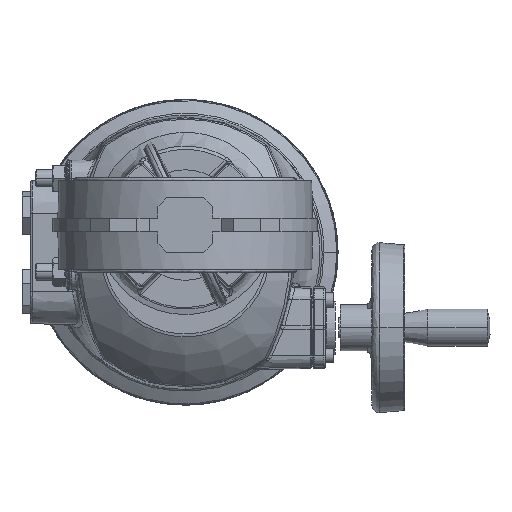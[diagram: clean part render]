
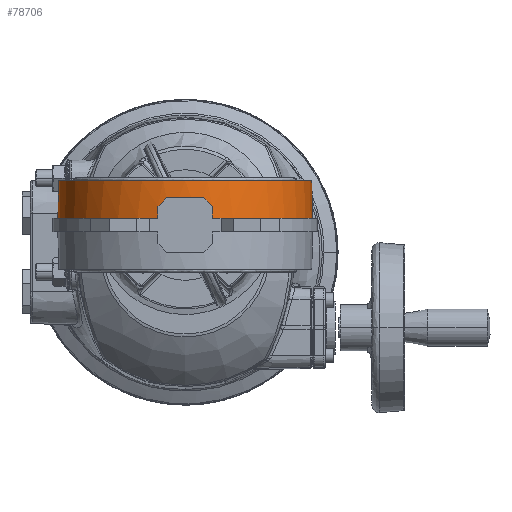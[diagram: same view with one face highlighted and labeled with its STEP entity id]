
A CAD part, front view. The second image highlights one B-rep face of the part: STEP entity #78706.
In plain terms, the highlighted conical face has half-angle 1 degrees and reference radius 74.884 mm.
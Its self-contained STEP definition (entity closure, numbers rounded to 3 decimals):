
#3187 = ORIENTED_EDGE ( 'NONE', *, *, #31647, .T. ) ;
#8402 = EDGE_CURVE ( 'NONE', #90269, #90282, #33159, .T. ) ;
#8737 = AXIS2_PLACEMENT_3D ( 'NONE', #94306, #28377, #21492 ) ;
#9032 = CARTESIAN_POINT ( 'NONE',  ( -12.676, -73.64, 14.324 ) ) ;
#9079 = EDGE_CURVE ( 'NONE', #61916, #35025, #98708, .T. ) ;
#10320 = B_SPLINE_CURVE_WITH_KNOTS ( 'NONE', 3,
 ( #75633, #66690, #19207, #74577 ),
 .UNSPECIFIED., .F., .F.,
 ( 4, 4 ),
 ( 0., 0.007 ),
 .UNSPECIFIED. ) ;
#12321 = DIRECTION ( 'NONE',  ( 0., 0., 1. ) ) ;
#15179 = CARTESIAN_POINT ( 'NONE',  ( 16., -73.113, 6.333 ) ) ;
#19207 = CARTESIAN_POINT ( 'NONE',  ( -16., -73.071, 8.667 ) ) ;
#19409 = AXIS2_PLACEMENT_3D ( 'NONE', #69125, #53338, #62283 ) ;
#20102 = VERTEX_POINT ( 'NONE', #91496 ) ;
#20107 = EDGE_CURVE ( 'NONE', #50931, #61916, #10320, .T. ) ;
#20149 = CARTESIAN_POINT ( 'NONE',  ( -74.884, 0., 4. ) ) ;
#20681 = CARTESIAN_POINT ( 'NONE',  ( -74.5, 0., 26. ) ) ;
#21492 = DIRECTION ( 'NONE',  ( -1., 0., 0. ) ) ;
#22194 = CARTESIAN_POINT ( 'NONE',  ( 16., -73.03, 11. ) ) ;
#22734 = CARTESIAN_POINT ( 'NONE',  ( -16., -73.155, 4. ) ) ;
#23089 = CARTESIAN_POINT ( 'NONE',  ( 16., -73.03, 11. ) ) ;
#23470 = DIRECTION ( 'NONE',  ( 0., 0., 1. ) ) ;
#23577 = ORIENTED_EDGE ( 'NONE', *, *, #42730, .T. ) ;
#26219 = ORIENTED_EDGE ( 'NONE', *, *, #9079, .T. ) ;
#26371 = CARTESIAN_POINT ( 'NONE',  ( -14.343, -73.363, 12.657 ) ) ;
#28020 = CARTESIAN_POINT ( 'NONE',  ( 74.884, 0., 4. ) ) ;
#28377 = DIRECTION ( 'NONE',  ( 0., 0., 1. ) ) ;
#31647 = EDGE_CURVE ( 'NONE', #35025, #41593, #96277, .T. ) ;
#33159 = LINE ( 'NONE', #42105, #60260 ) ;
#35025 = VERTEX_POINT ( 'NONE', #66883 ) ;
#37050 = CIRCLE ( 'NONE', #72378, 74.884 ) ;
#37483 = B_SPLINE_CURVE_WITH_KNOTS ( 'NONE', 3,
 ( #23089, #87514, #15179, #47383 ),
 .UNSPECIFIED., .F., .F.,
 ( 4, 4 ),
 ( 0., 0.007 ),
 .UNSPECIFIED. ) ;
#37714 = CARTESIAN_POINT ( 'NONE',  ( 11., -73.86, 16. ) ) ;
#37871 = VERTEX_POINT ( 'NONE', #70516 ) ;
#38036 = DIRECTION ( 'NONE',  ( 0.017, 0., -1. ) ) ;
#39179 = VERTEX_POINT ( 'NONE', #93688 ) ;
#41593 = VERTEX_POINT ( 'NONE', #37714 ) ;
#42105 = CARTESIAN_POINT ( 'NONE',  ( -74.884, 0., 4. ) ) ;
#42730 = EDGE_CURVE ( 'NONE', #90282, #50931, #37050, .T. ) ;
#43915 =( BOUNDED_CURVE ( )  B_SPLINE_CURVE ( 3, ( #70705, #56472, #94490, #22194 ),
 .UNSPECIFIED., .F., .T. ) 
 B_SPLINE_CURVE_WITH_KNOTS ( ( 4, 4 ),
 ( 4.843, 4.911 ),
 .UNSPECIFIED. ) 
 CURVE ( )  GEOMETRIC_REPRESENTATION_ITEM ( )  RATIONAL_B_SPLINE_CURVE ( ( 1., 1., 1., 1. ) ) 
 REPRESENTATION_ITEM ( '' )  );
#44390 = FACE_OUTER_BOUND ( 'NONE', #86710, .T. ) ;
#44822 = VECTOR ( 'NONE', #38036, 1000. ) ;
#45080 = CARTESIAN_POINT ( 'NONE',  ( 0., 0., 4. ) ) ;
#46364 = CARTESIAN_POINT ( 'NONE',  ( 74.5, 0., 26. ) ) ;
#47282 = EDGE_CURVE ( 'NONE', #90269, #94356, #79548, .T. ) ;
#47383 = CARTESIAN_POINT ( 'NONE',  ( 16., -73.155, 4. ) ) ;
#50931 = VERTEX_POINT ( 'NONE', #22734 ) ;
#53338 = DIRECTION ( 'NONE',  ( 0., 0., -1. ) ) ;
#53516 = DIRECTION ( 'NONE',  ( -1., 0., 0. ) ) ;
#56472 = CARTESIAN_POINT ( 'NONE',  ( 12.676, -73.64, 14.324 ) ) ;
#56591 = ORIENTED_EDGE ( 'NONE', *, *, #75727, .T. ) ;
#56886 = DIRECTION ( 'NONE',  ( -0.017, 0., -1. ) ) ;
#58837 = ORIENTED_EDGE ( 'NONE', *, *, #93458, .F. ) ;
#59243 = ORIENTED_EDGE ( 'NONE', *, *, #20107, .T. ) ;
#59642 = CARTESIAN_POINT ( 'NONE',  ( -11., -73.86, 16. ) ) ;
#60260 = VECTOR ( 'NONE', #56886, 1000. ) ;
#61916 = VERTEX_POINT ( 'NONE', #87874 ) ;
#62283 = DIRECTION ( 'NONE',  ( -1., 0., 0. ) ) ;
#64080 = CIRCLE ( 'NONE', #74141, 74.884 ) ;
#65669 = DIRECTION ( 'NONE',  ( -1., 0., 0. ) ) ;
#66498 = CARTESIAN_POINT ( 'NONE',  ( -16., -73.03, 11. ) ) ;
#66614 = CONICAL_SURFACE ( 'NONE', #19409, 74.884, 0.017 ) ;
#66690 = CARTESIAN_POINT ( 'NONE',  ( -16., -73.113, 6.333 ) ) ;
#66883 = CARTESIAN_POINT ( 'NONE',  ( -11., -73.86, 16. ) ) ;
#69125 = CARTESIAN_POINT ( 'NONE',  ( 0., 0., 4. ) ) ;
#70516 = CARTESIAN_POINT ( 'NONE',  ( 74.884, 0., 4. ) ) ;
#70705 = CARTESIAN_POINT ( 'NONE',  ( 11., -73.86, 16. ) ) ;
#71496 = EDGE_CURVE ( 'NONE', #20102, #37871, #64080, .T. ) ;
#72162 = EDGE_CURVE ( 'NONE', #39179, #20102, #37483, .T. ) ;
#72378 = AXIS2_PLACEMENT_3D ( 'NONE', #45080, #83619, #53516 ) ;
#74141 = AXIS2_PLACEMENT_3D ( 'NONE', #75625, #12321, #92536 ) ;
#74577 = CARTESIAN_POINT ( 'NONE',  ( -16., -73.03, 11. ) ) ;
#75625 = CARTESIAN_POINT ( 'NONE',  ( 0., 0., 4. ) ) ;
#75633 = CARTESIAN_POINT ( 'NONE',  ( -16., -73.155, 4. ) ) ;
#75727 = EDGE_CURVE ( 'NONE', #41593, #39179, #43915, .T. ) ;
#78706 = ADVANCED_FACE ( 'NONE', ( #44390 ), #66614, .T. ) ;
#79548 = CIRCLE ( 'NONE', #88018, 74.5 ) ;
#83619 = DIRECTION ( 'NONE',  ( 0., 0., 1. ) ) ;
#86710 = EDGE_LOOP ( 'NONE', ( #58837, #92769, #98561, #23577, #59243, #26219, #3187, #56591, #90450, #87836 ) ) ;
#87386 = CARTESIAN_POINT ( 'NONE',  ( 0., 0., 26. ) ) ;
#87514 = CARTESIAN_POINT ( 'NONE',  ( 16., -73.071, 8.667 ) ) ;
#87836 = ORIENTED_EDGE ( 'NONE', *, *, #71496, .T. ) ;
#87874 = CARTESIAN_POINT ( 'NONE',  ( -16., -73.03, 11. ) ) ;
#88018 = AXIS2_PLACEMENT_3D ( 'NONE', #87386, #23470, #65669 ) ;
#90269 = VERTEX_POINT ( 'NONE', #20681 ) ;
#90282 = VERTEX_POINT ( 'NONE', #20149 ) ;
#90450 = ORIENTED_EDGE ( 'NONE', *, *, #72162, .T. ) ;
#91496 = CARTESIAN_POINT ( 'NONE',  ( 16., -73.155, 4. ) ) ;
#92536 = DIRECTION ( 'NONE',  ( -1., 0., 0. ) ) ;
#92769 = ORIENTED_EDGE ( 'NONE', *, *, #47282, .F. ) ;
#93458 = EDGE_CURVE ( 'NONE', #94356, #37871, #100271, .T. ) ;
#93688 = CARTESIAN_POINT ( 'NONE',  ( 16., -73.03, 11. ) ) ;
#94306 = CARTESIAN_POINT ( 'NONE',  ( 0., 0., 16. ) ) ;
#94356 = VERTEX_POINT ( 'NONE', #46364 ) ;
#94490 = CARTESIAN_POINT ( 'NONE',  ( 14.343, -73.363, 12.657 ) ) ;
#96277 = CIRCLE ( 'NONE', #8737, 74.675 ) ;
#98561 = ORIENTED_EDGE ( 'NONE', *, *, #8402, .T. ) ;
#98708 =( BOUNDED_CURVE ( )  B_SPLINE_CURVE ( 3, ( #66498, #26371, #9032, #59642 ),
 .UNSPECIFIED., .F., .F. ) 
 B_SPLINE_CURVE_WITH_KNOTS ( ( 4, 4 ),
 ( 1.372, 1.44 ),
 .UNSPECIFIED. ) 
 CURVE ( )  GEOMETRIC_REPRESENTATION_ITEM ( )  RATIONAL_B_SPLINE_CURVE ( ( 1., 1., 1., 1. ) ) 
 REPRESENTATION_ITEM ( '' )  );
#100271 = LINE ( 'NONE', #28020, #44822 ) ;
